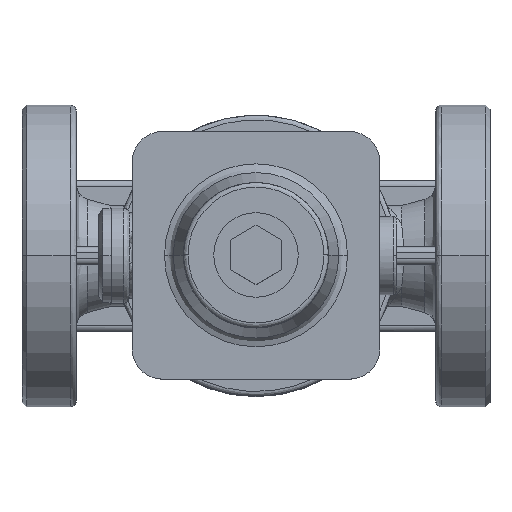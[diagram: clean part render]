
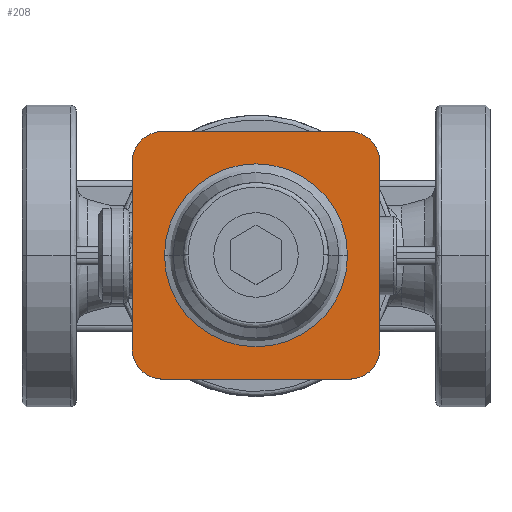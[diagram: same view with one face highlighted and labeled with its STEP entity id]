
A CAD part, top view. The second image highlights one B-rep face of the part: STEP entity #208.
In plain terms, the highlighted planar face has unit normal (0, 0, 1).
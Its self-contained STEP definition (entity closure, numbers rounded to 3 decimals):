
#208=ADVANCED_FACE('',(#2099,#2100),#2098,.T.);
#2098=PLANE('',#5773);
#2099=FACE_OUTER_BOUND('',#5774,.T.);
#2100=FACE_BOUND('',#5775,.T.);
#5770=CARTESIAN_POINT('',(-49.2,-49.2,128.8));
#5771=DIRECTION('',(0.,0.,1.));
#5772=DIRECTION('',(1.,0.,0.));
#5773=AXIS2_PLACEMENT_3D('',#5770,#5771,#5772);
#5774=EDGE_LOOP('',(#8708,#8709,#8710,#8711,#8712,#8713,#8714,#8715));
#5775=EDGE_LOOP('',(#8716,#8717));
#8708=ORIENTED_EDGE('',*,*,#10215,.F.);
#8709=ORIENTED_EDGE('',*,*,#10216,.T.);
#8710=ORIENTED_EDGE('',*,*,#10217,.F.);
#8711=ORIENTED_EDGE('',*,*,#10218,.T.);
#8712=ORIENTED_EDGE('',*,*,#10219,.F.);
#8713=ORIENTED_EDGE('',*,*,#10220,.T.);
#8714=ORIENTED_EDGE('',*,*,#10221,.F.);
#8715=ORIENTED_EDGE('',*,*,#10222,.T.);
#8716=ORIENTED_EDGE('',*,*,#10223,.T.);
#8717=ORIENTED_EDGE('',*,*,#10224,.T.);
#10215=EDGE_CURVE('',#14987,#14988,#14989,.T.);
#10216=EDGE_CURVE('',#14987,#14995,#14996,.T.);
#10217=EDGE_CURVE('',#15002,#14995,#15003,.T.);
#10218=EDGE_CURVE('',#15002,#15009,#15010,.T.);
#10219=EDGE_CURVE('',#15016,#15009,#15017,.T.);
#10220=EDGE_CURVE('',#15016,#15023,#15024,.T.);
#10221=EDGE_CURVE('',#15030,#15023,#15031,.T.);
#10222=EDGE_CURVE('',#15030,#14988,#15037,.T.);
#10223=EDGE_CURVE('',#15043,#15044,#15045,.T.);
#10224=EDGE_CURVE('',#15044,#15043,#15051,.T.);
#14987=VERTEX_POINT('',#21338);
#14988=VERTEX_POINT('',#21339);
#14989=LINE('',#21340,#21341);
#14995=VERTEX_POINT('',#21343);
#14996=CIRCLE('',#21347,10.);
#15002=VERTEX_POINT('',#21348);
#15003=LINE('',#21349,#21350);
#15009=VERTEX_POINT('',#21352);
#15010=CIRCLE('',#21356,10.);
#15016=VERTEX_POINT('',#21357);
#15017=LINE('',#21358,#21359);
#15023=VERTEX_POINT('',#21361);
#15024=CIRCLE('',#21365,10.);
#15030=VERTEX_POINT('',#21366);
#15031=LINE('',#21367,#21368);
#15037=CIRCLE('',#21373,10.);
#15043=VERTEX_POINT('',#21374);
#15044=VERTEX_POINT('',#21375);
#15045=CIRCLE('',#21379,30.302);
#15051=CIRCLE('',#21383,30.302);
#21338=CARTESIAN_POINT('',(-31.,41.,128.8));
#21339=CARTESIAN_POINT('',(31.,41.,128.8));
#21340=CARTESIAN_POINT('',(-31.,41.,128.8));
#21341=VECTOR('',#21342,62.);
#21342=DIRECTION('',(1.,0.,0.));
#21343=CARTESIAN_POINT('',(-41.,31.,128.8));
#21344=CARTESIAN_POINT('',(-31.,31.,128.8));
#21345=DIRECTION('',(0.,0.,1.));
#21346=DIRECTION('',(-1.,0.,0.));
#21347=AXIS2_PLACEMENT_3D('',#21344,#21345,#21346);
#21348=CARTESIAN_POINT('',(-41.,-31.,128.8));
#21349=CARTESIAN_POINT('',(-41.,-31.,128.8));
#21350=VECTOR('',#21351,62.);
#21351=DIRECTION('',(0.,1.,0.));
#21352=CARTESIAN_POINT('',(-31.,-41.,128.8));
#21353=CARTESIAN_POINT('',(-31.,-31.,128.8));
#21354=DIRECTION('',(0.,0.,1.));
#21355=DIRECTION('',(-1.,0.,0.));
#21356=AXIS2_PLACEMENT_3D('',#21353,#21354,#21355);
#21357=CARTESIAN_POINT('',(31.,-41.,128.8));
#21358=CARTESIAN_POINT('',(31.,-41.,128.8));
#21359=VECTOR('',#21360,62.);
#21360=DIRECTION('',(-1.,0.,0.));
#21361=CARTESIAN_POINT('',(41.,-31.,128.8));
#21362=CARTESIAN_POINT('',(31.,-31.,128.8));
#21363=DIRECTION('',(0.,0.,1.));
#21364=DIRECTION('',(-1.,0.,0.));
#21365=AXIS2_PLACEMENT_3D('',#21362,#21363,#21364);
#21366=CARTESIAN_POINT('',(41.,31.,128.8));
#21367=CARTESIAN_POINT('',(41.,31.,128.8));
#21368=VECTOR('',#21369,62.);
#21369=DIRECTION('',(0.,-1.,0.));
#21370=CARTESIAN_POINT('',(31.,31.,128.8));
#21371=DIRECTION('',(0.,0.,1.));
#21372=DIRECTION('',(-1.,0.,0.));
#21373=AXIS2_PLACEMENT_3D('',#21370,#21371,#21372);
#21374=CARTESIAN_POINT('',(30.302,0.,128.8));
#21375=CARTESIAN_POINT('',(-30.302,0.,128.8));
#21376=CARTESIAN_POINT('',(0.,0.,128.8));
#21377=DIRECTION('',(0.,0.,-1.));
#21378=DIRECTION('',(1.,0.,0.));
#21379=AXIS2_PLACEMENT_3D('',#21376,#21377,#21378);
#21380=CARTESIAN_POINT('',(0.,0.,128.8));
#21381=DIRECTION('',(0.,0.,-1.));
#21382=DIRECTION('',(1.,0.,0.));
#21383=AXIS2_PLACEMENT_3D('',#21380,#21381,#21382);
